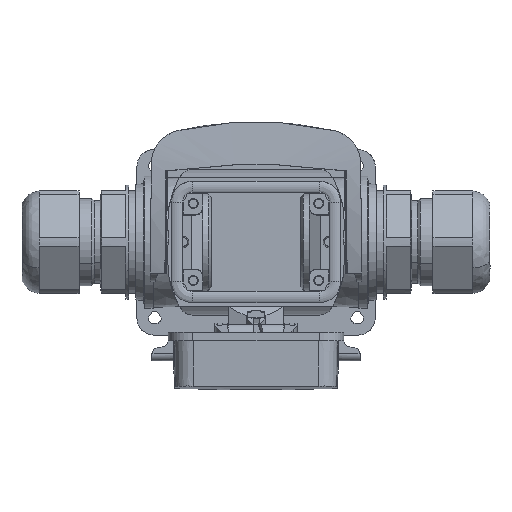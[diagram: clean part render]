
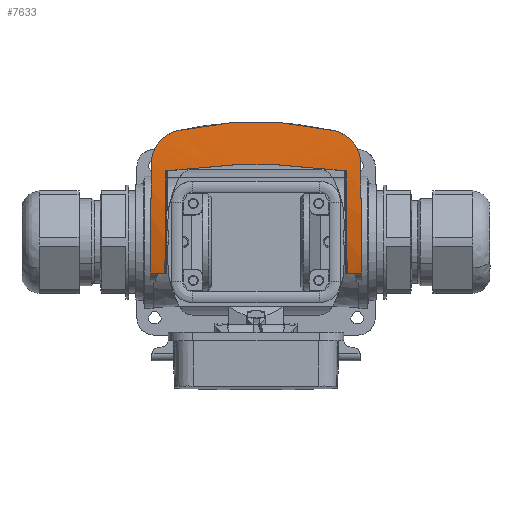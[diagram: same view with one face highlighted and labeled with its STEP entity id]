
A CAD part, top view. The second image highlights one B-rep face of the part: STEP entity #7633.
In plain terms, the highlighted cylindrical face has radius 120 mm (diameter 240 mm), a partial arc.
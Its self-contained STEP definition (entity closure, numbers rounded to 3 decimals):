
#5827=B_SPLINE_CURVE_WITH_KNOTS('',3,(#40394,#40395,#40396,#40397,#40398,
#40399),.UNSPECIFIED.,.F.,.F.,(4,2,4),(0.,0.5,1.),.UNSPECIFIED.);
#5828=B_SPLINE_CURVE_WITH_KNOTS('',3,(#40401,#40402,#40403,#40404,#40405,
#40406,#40407,#40408),.UNSPECIFIED.,.F.,.F.,(4,2,2,4),(0.,0.5,0.75,1.),
 .UNSPECIFIED.);
#5829=B_SPLINE_CURVE_WITH_KNOTS('',3,(#40410,#40411,#40412,#40413,#40414,
#40415),.UNSPECIFIED.,.F.,.F.,(4,2,4),(0.,0.5,1.),.UNSPECIFIED.);
#6168=CYLINDRICAL_SURFACE('',#31115,120.);
#6410=ELLIPSE('',#31108,120.005,120.);
#6411=ELLIPSE('',#31109,120.005,120.);
#6412=ELLIPSE('',#31111,120.005,120.);
#6413=ELLIPSE('',#31112,1376.846,120.);
#6414=ELLIPSE('',#31113,1376.846,120.);
#6415=ELLIPSE('',#31114,120.005,120.);
#6823=CIRCLE('',#31107,120.);
#6824=CIRCLE('',#31110,120.);
#7633=ADVANCED_FACE('',(#9182),#6168,.T.);
#9182=FACE_OUTER_BOUND('',#10062,.T.);
#10062=EDGE_LOOP('',(#11237,#11238,#11239,#11240,#11241,#11242,#11243,#11244,
#11245,#11246,#11247,#11248,#11249,#11250));
#11237=ORIENTED_EDGE('',*,*,#20261,.T.);
#11238=ORIENTED_EDGE('',*,*,#20262,.F.);
#11239=ORIENTED_EDGE('',*,*,#20263,.T.);
#11240=ORIENTED_EDGE('',*,*,#20264,.T.);
#11241=ORIENTED_EDGE('',*,*,#20265,.F.);
#11242=ORIENTED_EDGE('',*,*,#20266,.F.);
#11243=ORIENTED_EDGE('',*,*,#20267,.F.);
#11244=ORIENTED_EDGE('',*,*,#20268,.F.);
#11245=ORIENTED_EDGE('',*,*,#20269,.T.);
#11246=ORIENTED_EDGE('',*,*,#20270,.F.);
#11247=ORIENTED_EDGE('',*,*,#20271,.F.);
#11248=ORIENTED_EDGE('',*,*,#20272,.F.);
#11249=ORIENTED_EDGE('',*,*,#20273,.T.);
#11250=ORIENTED_EDGE('',*,*,#20274,.T.);
#16352=VERTEX_POINT('',#40388);
#16353=VERTEX_POINT('',#40389);
#16354=VERTEX_POINT('',#40391);
#16355=VERTEX_POINT('',#40393);
#16356=VERTEX_POINT('',#40400);
#16357=VERTEX_POINT('',#40409);
#16358=VERTEX_POINT('',#40416);
#16359=VERTEX_POINT('',#40418);
#16360=VERTEX_POINT('',#40420);
#16361=VERTEX_POINT('',#40422);
#16362=VERTEX_POINT('',#40424);
#16363=VERTEX_POINT('',#40426);
#16364=VERTEX_POINT('',#40428);
#16365=VERTEX_POINT('',#40430);
#20261=EDGE_CURVE('',#16352,#16353,#24432,.T.);
#20262=EDGE_CURVE('',#16354,#16353,#6823,.T.);
#20263=EDGE_CURVE('',#16354,#16355,#6410,.T.);
#20264=EDGE_CURVE('',#16355,#16356,#5827,.T.);
#20265=EDGE_CURVE('',#16357,#16356,#5828,.T.);
#20266=EDGE_CURVE('',#16358,#16357,#5829,.T.);
#20267=EDGE_CURVE('',#16359,#16358,#6411,.T.);
#20268=EDGE_CURVE('',#16360,#16359,#6824,.T.);
#20269=EDGE_CURVE('',#16360,#16361,#24433,.T.);
#20270=EDGE_CURVE('',#16362,#16361,#6412,.T.);
#20271=EDGE_CURVE('',#16363,#16362,#6413,.T.);
#20272=EDGE_CURVE('',#16364,#16363,#24434,.T.);
#20273=EDGE_CURVE('',#16364,#16365,#6414,.T.);
#20274=EDGE_CURVE('',#16365,#16352,#6415,.T.);
#24432=LINE('',#40387,#27061);
#24433=LINE('',#40421,#27062);
#24434=LINE('',#40427,#27063);
#27061=VECTOR('',#33372,1.);
#27062=VECTOR('',#33381,1.);
#27063=VECTOR('',#33386,1.);
#31107=AXIS2_PLACEMENT_3D('',#40390,#33373,#33374);
#31108=AXIS2_PLACEMENT_3D('',#40392,#33375,#33376);
#31109=AXIS2_PLACEMENT_3D('',#40417,#33377,#33378);
#31110=AXIS2_PLACEMENT_3D('',#40419,#33379,#33380);
#31111=AXIS2_PLACEMENT_3D('',#40423,#33382,#33383);
#31112=AXIS2_PLACEMENT_3D('',#40425,#33384,#33385);
#31113=AXIS2_PLACEMENT_3D('',#40429,#33387,#33388);
#31114=AXIS2_PLACEMENT_3D('',#40431,#33389,#33390);
#31115=AXIS2_PLACEMENT_3D('',#40432,#33391,#33392);
#33372=DIRECTION('',(1.,0.,0.));
#33373=DIRECTION('',(1.,0.,0.));
#33374=DIRECTION('',(0.,0.,1.));
#33375=DIRECTION('',(-1.,-0.009,0.));
#33376=DIRECTION('',(0.009,-1.,0.));
#33377=DIRECTION('',(-1.,0.009,0.));
#33378=DIRECTION('',(0.009,1.,0.));
#33379=DIRECTION('',(-1.,0.,0.));
#33380=DIRECTION('',(0.,0.,-1.));
#33381=DIRECTION('',(1.,0.,0.));
#33382=DIRECTION('',(1.,-0.009,0.));
#33383=DIRECTION('',(0.009,1.,0.));
#33384=DIRECTION('',(0.087,-0.996,0.));
#33385=DIRECTION('',(0.996,0.087,0.));
#33386=DIRECTION('',(-1.,0.,0.));
#33387=DIRECTION('',(0.087,0.996,0.));
#33388=DIRECTION('',(0.996,-0.087,0.));
#33389=DIRECTION('',(1.,0.009,0.));
#33390=DIRECTION('',(0.009,-1.,0.));
#33391=DIRECTION('',(1.,0.,0.));
#33392=DIRECTION('',(0.,0.,1.));
#40387=CARTESIAN_POINT('',(37.,-11.,25.743));
#40388=CARTESIAN_POINT('',(31.946,-11.,25.743));
#40389=CARTESIAN_POINT('',(37.,-11.,25.743));
#40390=CARTESIAN_POINT('',(37.,23.157,-89.293));
#40391=CARTESIAN_POINT('',(37.,-5.729,27.178));
#40392=CARTESIAN_POINT('',(36.748,23.157,-89.293));
#40393=CARTESIAN_POINT('',(36.711,27.42,30.631));
#40394=CARTESIAN_POINT('',(36.711,27.42,30.631));
#40395=CARTESIAN_POINT('',(36.687,30.129,30.535));
#40396=CARTESIAN_POINT('',(35.748,32.746,30.342));
#40397=CARTESIAN_POINT('',(32.357,36.95,29.93));
#40398=CARTESIAN_POINT('',(30.,38.422,29.733));
#40399=CARTESIAN_POINT('',(27.358,39.02,29.654));
#40400=CARTESIAN_POINT('',(27.358,39.02,29.654));
#40401=CARTESIAN_POINT('',(-27.358,39.02,29.654));
#40402=CARTESIAN_POINT('',(-18.383,41.05,29.383));
#40403=CARTESIAN_POINT('',(-9.183,42.001,29.218));
#40404=CARTESIAN_POINT('',(4.611,42.,29.218));
#40405=CARTESIAN_POINT('',(9.214,41.756,29.258));
#40406=CARTESIAN_POINT('',(18.342,40.773,29.408));
#40407=CARTESIAN_POINT('',(22.87,40.035,29.518));
#40408=CARTESIAN_POINT('',(27.358,39.02,29.654));
#40409=CARTESIAN_POINT('',(-27.358,39.02,29.654));
#40410=CARTESIAN_POINT('',(-36.711,27.42,30.631));
#40411=CARTESIAN_POINT('',(-36.687,30.129,30.535));
#40412=CARTESIAN_POINT('',(-35.748,32.744,30.342));
#40413=CARTESIAN_POINT('',(-32.359,36.949,29.93));
#40414=CARTESIAN_POINT('',(-30.,38.422,29.733));
#40415=CARTESIAN_POINT('',(-27.358,39.02,29.654));
#40416=CARTESIAN_POINT('',(-36.711,27.42,30.631));
#40417=CARTESIAN_POINT('',(-36.748,23.157,-89.293));
#40418=CARTESIAN_POINT('',(-37.,-5.729,27.178));
#40419=CARTESIAN_POINT('',(-37.,23.157,-89.293));
#40420=CARTESIAN_POINT('',(-37.,-11.,25.743));
#40421=CARTESIAN_POINT('',(-37.,-11.,25.743));
#40422=CARTESIAN_POINT('',(-31.946,-11.,25.743));
#40423=CARTESIAN_POINT('',(-31.648,23.157,-89.293));
#40424=CARTESIAN_POINT('',(-31.633,24.879,30.694));
#40425=CARTESIAN_POINT('',(-51.31,23.157,-89.293));
#40426=CARTESIAN_POINT('',(-7.39,27.,30.645));
#40427=CARTESIAN_POINT('',(-7.39,27.,30.645));
#40428=CARTESIAN_POINT('',(7.39,27.,30.645));
#40429=CARTESIAN_POINT('',(51.31,23.157,-89.293));
#40430=CARTESIAN_POINT('',(31.633,24.879,30.694));
#40431=CARTESIAN_POINT('',(31.648,23.157,-89.293));
#40432=CARTESIAN_POINT('',(-37.,23.157,-89.293));
